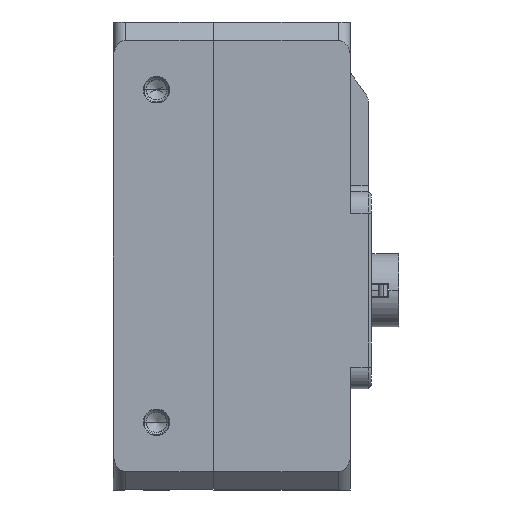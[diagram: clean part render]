
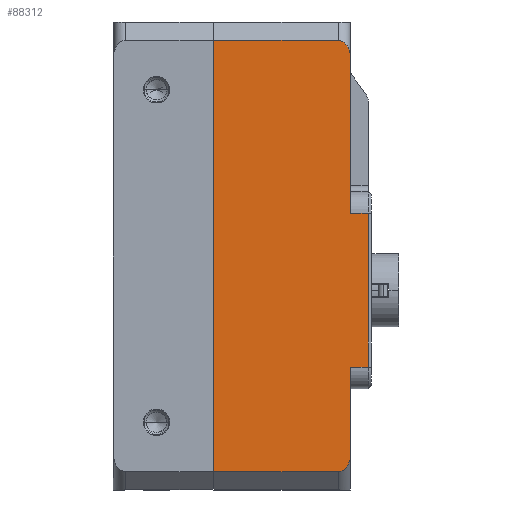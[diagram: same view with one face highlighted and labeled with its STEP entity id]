
A CAD part, left-side view. The second image highlights one B-rep face of the part: STEP entity #88312.
In plain terms, the highlighted planar face has unit normal (1, 0, 0).
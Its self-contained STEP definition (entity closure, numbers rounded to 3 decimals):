
#83029=DIRECTION('',(0.,0.,-1.));
#83030=VECTOR('',#83029,70.);
#83031=CARTESIAN_POINT('',(-38.,2.7,35.));
#83032=LINE('',#83031,#83030);
#83033=CARTESIAN_POINT('',(-38.,-17.5,-35.));
#83034=CARTESIAN_POINT('',(-38.,-17.6,-35.));
#83035=CARTESIAN_POINT('',(-38.,-17.781,-34.979));
#83036=CARTESIAN_POINT('',(-38.,-18.092,-34.888));
#83037=CARTESIAN_POINT('',(-38.,-18.414,-34.707));
#83038=CARTESIAN_POINT('',(-38.,-18.731,-34.42));
#83039=CARTESIAN_POINT('',(-38.,-19.078,-33.963));
#83040=CARTESIAN_POINT('',(-38.,-19.326,-33.407));
#83041=CARTESIAN_POINT('',(-38.,-19.47,-32.746));
#83042=CARTESIAN_POINT('',(-38.,-19.5,-32.373));
#83043=CARTESIAN_POINT('',(-38.,-19.5,-32.172));
#83045=CARTESIAN_POINT('',(-38.,-19.5,32.172));
#83046=CARTESIAN_POINT('',(-38.,-19.5,32.373));
#83047=CARTESIAN_POINT('',(-38.,-19.47,32.746));
#83048=CARTESIAN_POINT('',(-38.,-19.326,33.407));
#83049=CARTESIAN_POINT('',(-38.,-19.078,33.963));
#83050=CARTESIAN_POINT('',(-38.,-18.731,34.42));
#83051=CARTESIAN_POINT('',(-38.,-18.414,34.707));
#83052=CARTESIAN_POINT('',(-38.,-18.092,34.888));
#83053=CARTESIAN_POINT('',(-38.,-17.781,34.979));
#83054=CARTESIAN_POINT('',(-38.,-17.6,35.));
#83055=CARTESIAN_POINT('',(-38.,-17.5,35.));
#83061=DIRECTION('',(0.,1.,0.));
#83062=VECTOR('',#83061,20.2);
#83063=CARTESIAN_POINT('',(-38.,-17.5,
-35.));
#83064=LINE('',#83063,#83062);
#83205=DIRECTION('',(0.,-1.,0.));
#83206=VECTOR('',#83205,20.2);
#83207=CARTESIAN_POINT('',(-38.,2.7,35.));
#83208=LINE('',#83207,#83206);
#83319=DIRECTION('',(0.,0.,-1.));
#83320=VECTOR('',#83319,14.122);
#83321=CARTESIAN_POINT('',(-38.,-19.5,-18.05));
#83322=LINE('',#83321,#83320);
#83440=DIRECTION('',(0.,0.,-1.));
#83441=VECTOR('',#83440,25.222);
#83442=CARTESIAN_POINT('',(-38.,-19.5,
32.172));
#83443=LINE('',#83442,#83441);
#84299=DIRECTION('',(0.,1.,0.));
#84300=VECTOR('',#84299,2.89);
#84301=CARTESIAN_POINT('',(-38.,-22.39,6.95));
#84302=LINE('',#84301,#84300);
#84710=DIRECTION('',(0.,0.,-1.));
#84711=VECTOR('',#84710,25.);
#84712=CARTESIAN_POINT('',(-38.,-22.39,6.95));
#84713=LINE('',#84712,#84711);
#84714=DIRECTION('',(0.,-1.,0.));
#84715=VECTOR('',#84714,2.89);
#84716=CARTESIAN_POINT('',(-38.,-19.5,-18.05));
#84717=LINE('',#84716,#84715);
#87005=CARTESIAN_POINT('',(-38.,2.7,35.));
#87006=CARTESIAN_POINT('',(-38.,2.7,-35.));
#87007=VERTEX_POINT('',#87005);
#87008=VERTEX_POINT('',#87006);
#87049=CARTESIAN_POINT('',(-38.,-17.5,
35.));
#87050=VERTEX_POINT('',#87049);
#87051=VERTEX_POINT('',#83045);
#87052=CARTESIAN_POINT('',(-38.,-19.5,6.95));
#87053=VERTEX_POINT('',#87052);
#87054=CARTESIAN_POINT('',(-38.,-22.39,6.95));
#87055=VERTEX_POINT('',#87054);
#87056=CARTESIAN_POINT('',(-38.,-22.39,-18.05));
#87057=VERTEX_POINT('',#87056);
#87058=CARTESIAN_POINT('',(-38.,-19.5,-18.05));
#87059=VERTEX_POINT('',#87058);
#87060=CARTESIAN_POINT('',(-38.,-19.5,-32.172));
#87061=VERTEX_POINT('',#87060);
#87062=VERTEX_POINT('',#83033);
#88286=CARTESIAN_POINT('',(-38.,-9.845,0.));
#88287=DIRECTION('',(1.,0.,0.));
#88288=DIRECTION('',(0.,0.,-1.));
#88289=AXIS2_PLACEMENT_3D('',#88286,#88287,#88288);
#88290=PLANE('',#88289);
#88291=ORIENTED_EDGE('',*,*,#88249,.T.);
#88293=ORIENTED_EDGE('',*,*,#88292,.F.);
#88295=ORIENTED_EDGE('',*,*,#88294,.T.);
#88297=ORIENTED_EDGE('',*,*,#88296,.F.);
#88299=ORIENTED_EDGE('',*,*,#88298,.T.);
#88301=ORIENTED_EDGE('',*,*,#88300,.F.);
#88303=ORIENTED_EDGE('',*,*,#88302,.T.);
#88305=ORIENTED_EDGE('',*,*,#88304,.F.);
#88307=ORIENTED_EDGE('',*,*,#88306,.T.);
#88309=ORIENTED_EDGE('',*,*,#88308,.F.);
#88310=EDGE_LOOP('',(#88291,#88293,#88295,#88297,#88299,#88301,#88303,#88305,
#88307,#88309));
#88311=FACE_OUTER_BOUND('',#88310,.F.);
#88312=ADVANCED_FACE('',(#88311),#88290,.T.);
#83044=B_SPLINE_CURVE_WITH_KNOTS('',3,(#83033,#83034,#83035,#83036,#83037,
#83038,#83039,#83040,#83041,#83042,#83043),.UNSPECIFIED.,.F.,.F.,(4,1,1,1,1,1,1,
1,4),(0.,0.063,0.125,0.25,0.375,0.5,0.75,0.875,1.),
.UNSPECIFIED.);
#83056=B_SPLINE_CURVE_WITH_KNOTS('',3,(#83045,#83046,#83047,#83048,#83049,
#83050,#83051,#83052,#83053,#83054,#83055),.UNSPECIFIED.,.F.,.F.,(4,1,1,1,1,1,1,
1,4),(0.,0.125,0.25,0.5,0.625,0.75,0.875,0.938,1.),
.UNSPECIFIED.);
#88249=EDGE_CURVE('',#87007,#87008,#83032,.T.);
#88292=EDGE_CURVE('',#87062,#87008,#83064,.T.);
#88294=EDGE_CURVE('',#87062,#87061,#83044,.T.);
#88296=EDGE_CURVE('',#87059,#87061,#83322,.T.);
#88298=EDGE_CURVE('',#87059,#87057,#84717,.T.);
#88300=EDGE_CURVE('',#87055,#87057,#84713,.T.);
#88302=EDGE_CURVE('',#87055,#87053,#84302,.T.);
#88304=EDGE_CURVE('',#87051,#87053,#83443,.T.);
#88306=EDGE_CURVE('',#87051,#87050,#83056,.T.);
#88308=EDGE_CURVE('',#87007,#87050,#83208,.T.);
